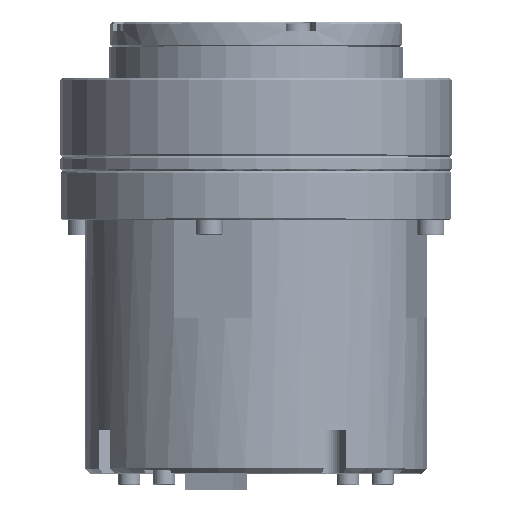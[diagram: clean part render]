
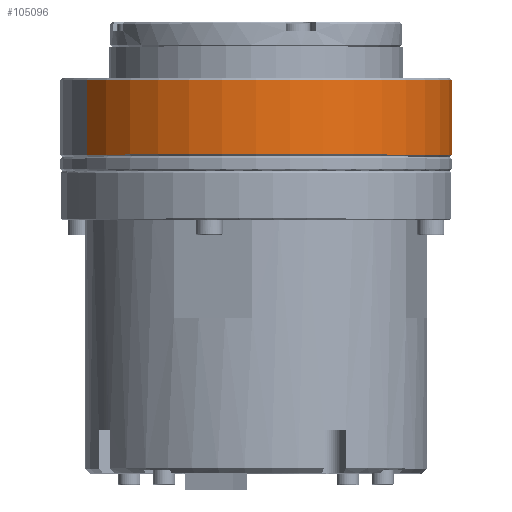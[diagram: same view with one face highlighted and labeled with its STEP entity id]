
A CAD part, top view. The second image highlights one B-rep face of the part: STEP entity #105096.
In plain terms, the highlighted cylindrical face has radius 40 mm (diameter 80 mm), a partial arc.
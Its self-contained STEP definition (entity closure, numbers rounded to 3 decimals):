
#606 = DIRECTION ( 'NONE',  ( 0., -1., 0. ) ) ;
#1112 = EDGE_CURVE ( 'NONE', #107921, #11253, #7132, .T. ) ;
#7132 = CIRCLE ( 'NONE', #43680, 40. ) ;
#11253 = VERTEX_POINT ( 'NONE', #85714 ) ;
#16172 = DIRECTION ( 'NONE',  ( 0., 1., 0. ) ) ;
#26586 = AXIS2_PLACEMENT_3D ( 'NONE', #51968, #16172, #103834 ) ;
#30304 = ORIENTED_EDGE ( 'NONE', *, *, #1112, .T. ) ;
#38804 = ORIENTED_EDGE ( 'NONE', *, *, #122799, .T. ) ;
#40598 = LINE ( 'NONE', #78092, #108615 ) ;
#42993 = DIRECTION ( 'NONE',  ( 0., 1., 0. ) ) ;
#43256 = DIRECTION ( 'NONE',  ( -0.866, 0., 0.5 ) ) ;
#43680 = AXIS2_PLACEMENT_3D ( 'NONE', #72366, #52096, #111133 ) ;
#51785 = CARTESIAN_POINT ( 'NONE',  ( 20., 37.5, 34.641 ) ) ;
#51968 = CARTESIAN_POINT ( 'NONE',  ( 0., 37.5, 0. ) ) ;
#52096 = DIRECTION ( 'NONE',  ( 0., -1., 0. ) ) ;
#53735 = LINE ( 'NONE', #119216, #85542 ) ;
#59049 = AXIS2_PLACEMENT_3D ( 'NONE', #80493, #42993, #62058 ) ;
#59348 = DIRECTION ( 'NONE',  ( 0., -1., 0. ) ) ;
#59967 = CYLINDRICAL_SURFACE ( 'NONE', #92872, 40. ) ;
#61062 = CIRCLE ( 'NONE', #59049, 40. ) ;
#62058 = DIRECTION ( 'NONE',  ( -0.866, 0., 0.5 ) ) ;
#72366 = CARTESIAN_POINT ( 'NONE',  ( 0., 52.7, 0. ) ) ;
#72802 = DIRECTION ( 'NONE',  ( 0., -1., 0. ) ) ;
#77975 = EDGE_CURVE ( 'NONE', #107921, #107943, #40598, .T. ) ;
#78092 = CARTESIAN_POINT ( 'NONE',  ( 34.641, 12.947, -20. ) ) ;
#79755 = ORIENTED_EDGE ( 'NONE', *, *, #109879, .T. ) ;
#80493 = CARTESIAN_POINT ( 'NONE',  ( 0., 37.5, 0. ) ) ;
#82540 = ORIENTED_EDGE ( 'NONE', *, *, #91511, .T. ) ;
#85542 = VECTOR ( 'NONE', #72802, 1000. ) ;
#85714 = CARTESIAN_POINT ( 'NONE',  ( -34.641, 52.7, 20. ) ) ;
#91254 = EDGE_LOOP ( 'NONE', ( #104537, #30304, #38804, #79755, #82540 ) ) ;
#91511 = EDGE_CURVE ( 'NONE', #115077, #107943, #95607, .T. ) ;
#91561 = CARTESIAN_POINT ( 'NONE',  ( 0., 12.947, 0. ) ) ;
#92872 = AXIS2_PLACEMENT_3D ( 'NONE', #91561, #59348, #43256 ) ;
#93458 = CARTESIAN_POINT ( 'NONE',  ( 34.641, 52.7, -20. ) ) ;
#95607 = CIRCLE ( 'NONE', #26586, 40. ) ;
#101087 = FACE_OUTER_BOUND ( 'NONE', #91254, .T. ) ;
#103629 = CARTESIAN_POINT ( 'NONE',  ( 34.641, 37.5, -20. ) ) ;
#103834 = DIRECTION ( 'NONE',  ( -0.866, 0., 0.5 ) ) ;
#104537 = ORIENTED_EDGE ( 'NONE', *, *, #77975, .F. ) ;
#105096 = ADVANCED_FACE ( 'NONE', ( #101087 ), #59967, .T. ) ;
#106535 = VERTEX_POINT ( 'NONE', #120330 ) ;
#107921 = VERTEX_POINT ( 'NONE', #93458 ) ;
#107943 = VERTEX_POINT ( 'NONE', #103629 ) ;
#108615 = VECTOR ( 'NONE', #606, 1000. ) ;
#109879 = EDGE_CURVE ( 'NONE', #106535, #115077, #61062, .T. ) ;
#111133 = DIRECTION ( 'NONE',  ( -0.866, 0., 0.5 ) ) ;
#115077 = VERTEX_POINT ( 'NONE', #51785 ) ;
#119216 = CARTESIAN_POINT ( 'NONE',  ( -34.641, 12.947, 20. ) ) ;
#120330 = CARTESIAN_POINT ( 'NONE',  ( -34.641, 37.5, 20. ) ) ;
#122799 = EDGE_CURVE ( 'NONE', #11253, #106535, #53735, .T. ) ;
